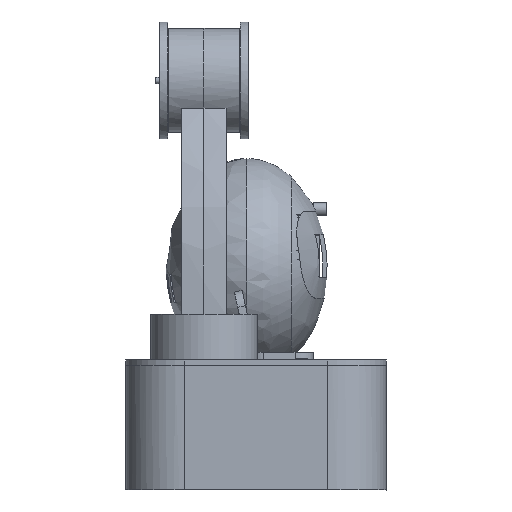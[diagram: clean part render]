
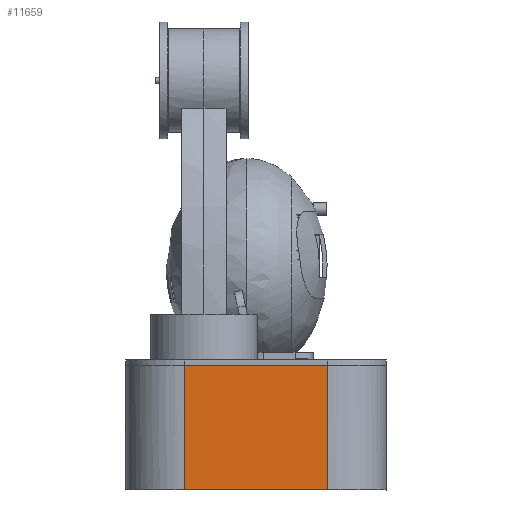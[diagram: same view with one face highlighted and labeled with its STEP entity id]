
A CAD part, left-side view. The second image highlights one B-rep face of the part: STEP entity #11659.
In plain terms, the highlighted planar face has unit normal (-1, 0, 0).
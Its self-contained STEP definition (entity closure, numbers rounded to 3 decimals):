
#175=DIRECTION('',(-1.0,0.0,0.0));
#1099=DIRECTION('',(0.0,1.0,0.0));
#1334=DIRECTION('',(0.0,-1.,0.0));
#10427=DIRECTION('',(0.0,-1.0,0.));
#10428=VECTOR('',#10427,110.);
#10429=CARTESIAN_POINT('',(-320.0,55.,0.));
#10430=LINE('',#10429,#10428);
#10431=CARTESIAN_POINT('',(-320.0,-55.,0.));
#10432=VERTEX_POINT('',#10431);
#10433=VERTEX_POINT('',#10429);
#10434=EDGE_CURVE('',#10433,#10432,#10430,.T.);
#11171=CARTESIAN_POINT('',(-320.,55.,96.));
#11175=VERTEX_POINT('',#11171);
#11309=CARTESIAN_POINT('',(-320.,-55.,96.));
#11310=VERTEX_POINT('',#11309);
#11313=VECTOR('',#1099,110.);
#11314=LINE('',#11309,#11313);
#11315=EDGE_CURVE('',#11310,#11175,#11314,.T.);
#11643=AXIS2_PLACEMENT_3D('',#10429,#175,#1334);
#11644=PLANE('',#11643);
#11645=DIRECTION('',(0.,0.0,-1.0));
#11646=VECTOR('',#11645,96.);
#11647=LINE('',#11309,#11646);
#11648=EDGE_CURVE('',#11310,#10432,#11647,.T.);
#11649=ORIENTED_EDGE('',*,*,#11648,.F.);
#11650=ORIENTED_EDGE('',*,*,#10434,.T.);
#11651=DIRECTION('',(0.,0.0,1.0));
#11652=VECTOR('',#11651,96.);
#11653=LINE('',#10429,#11652);
#11654=EDGE_CURVE('',#10433,#11175,#11653,.T.);
#11655=ORIENTED_EDGE('',*,*,#11654,.F.);
#11656=ORIENTED_EDGE('',*,*,#11315,.T.);
#11657=EDGE_LOOP('',(#11656,#11655,#11650,#11649));
#11658=FACE_BOUND('',#11657,.T.);
#11659=ADVANCED_FACE('',(#11658),#11644,.T.);
